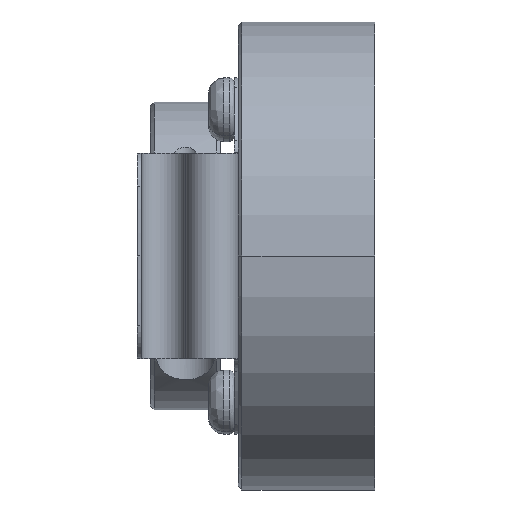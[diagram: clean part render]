
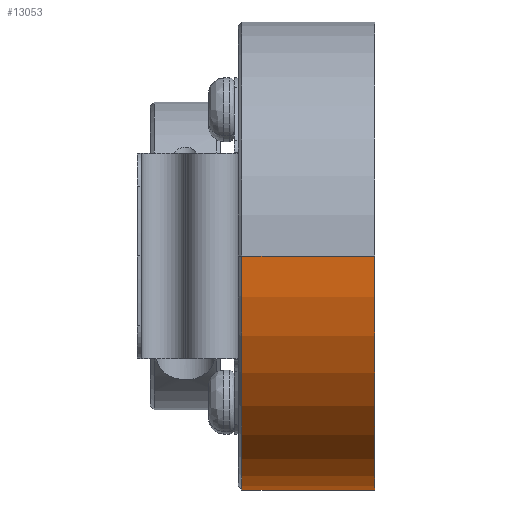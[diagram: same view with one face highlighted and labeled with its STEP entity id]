
A CAD part, front view. The second image highlights one B-rep face of the part: STEP entity #13053.
In plain terms, the highlighted cylindrical face has radius 18.25 mm (diameter 36.5 mm), a partial arc.
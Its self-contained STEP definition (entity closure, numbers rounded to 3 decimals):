
#511 = AXIS2_PLACEMENT_3D ( 'NONE', #1089, #13247, #4694 ) ;
#1089 = CARTESIAN_POINT ( 'NONE',  ( -1.3, 0., 0. ) ) ;
#1754 = DIRECTION ( 'NONE',  ( -1., 0., 0. ) ) ;
#2745 = EDGE_CURVE ( 'NONE', #12111, #11474, #20613, .T. ) ;
#2972 = ORIENTED_EDGE ( 'NONE', *, *, #21619, .T. ) ;
#3261 = VERTEX_POINT ( 'NONE', #5743 ) ;
#3556 = EDGE_CURVE ( 'NONE', #3261, #12111, #8741, .T. ) ;
#4694 = DIRECTION ( 'NONE',  ( 0., 1., 0. ) ) ;
#5311 = EDGE_LOOP ( 'NONE', ( #2972, #17202, #16824, #17157 ) ) ;
#5637 = DIRECTION ( 'NONE',  ( 1., 0., 0. ) ) ;
#5743 = CARTESIAN_POINT ( 'NONE',  ( -1.3, -18.25, 0. ) ) ;
#5989 = AXIS2_PLACEMENT_3D ( 'NONE', #13978, #5637, #10684 ) ;
#6224 = AXIS2_PLACEMENT_3D ( 'NONE', #8417, #1754, #12314 ) ;
#6444 = CARTESIAN_POINT ( 'NONE',  ( -11.65, 18.25, 0. ) ) ;
#6576 = CARTESIAN_POINT ( 'NONE',  ( -1.3, 18.25, 0. ) ) ;
#7938 = VECTOR ( 'NONE', #20151, 1000. ) ;
#8133 = CARTESIAN_POINT ( 'NONE',  ( -1000., -18.25, 0. ) ) ;
#8360 = VECTOR ( 'NONE', #19518, 1000. ) ;
#8417 = CARTESIAN_POINT ( 'NONE',  ( -1000., 0., 0. ) ) ;
#8649 = CIRCLE ( 'NONE', #511, 18.25 ) ;
#8697 = FACE_OUTER_BOUND ( 'NONE', #5311, .T. ) ;
#8741 = LINE ( 'NONE', #8133, #7938 ) ;
#8775 = VERTEX_POINT ( 'NONE', #6576 ) ;
#10684 = DIRECTION ( 'NONE',  ( 0., 1., 0. ) ) ;
#11474 = VERTEX_POINT ( 'NONE', #6444 ) ;
#12111 = VERTEX_POINT ( 'NONE', #18926 ) ;
#12314 = DIRECTION ( 'NONE',  ( 0., 1., 0. ) ) ;
#12696 = CARTESIAN_POINT ( 'NONE',  ( -1000., 18.25, 0. ) ) ;
#13053 = ADVANCED_FACE ( 'NONE', ( #8697 ), #17533, .T. ) ;
#13247 = DIRECTION ( 'NONE',  ( -1., 0., 0. ) ) ;
#13978 = CARTESIAN_POINT ( 'NONE',  ( -11.65, 0., 0. ) ) ;
#16824 = ORIENTED_EDGE ( 'NONE', *, *, #2745, .T. ) ;
#17157 = ORIENTED_EDGE ( 'NONE', *, *, #18210, .F. ) ;
#17202 = ORIENTED_EDGE ( 'NONE', *, *, #3556, .T. ) ;
#17533 = CYLINDRICAL_SURFACE ( 'NONE', #6224, 18.25 ) ;
#18210 = EDGE_CURVE ( 'NONE', #8775, #11474, #20695, .T. ) ;
#18926 = CARTESIAN_POINT ( 'NONE',  ( -11.65, -18.25, 0. ) ) ;
#19518 = DIRECTION ( 'NONE',  ( -1., 0., 0. ) ) ;
#20151 = DIRECTION ( 'NONE',  ( -1., 0., 0. ) ) ;
#20613 = CIRCLE ( 'NONE', #5989, 18.25 ) ;
#20695 = LINE ( 'NONE', #12696, #8360 ) ;
#21619 = EDGE_CURVE ( 'NONE', #8775, #3261, #8649, .T. ) ;
